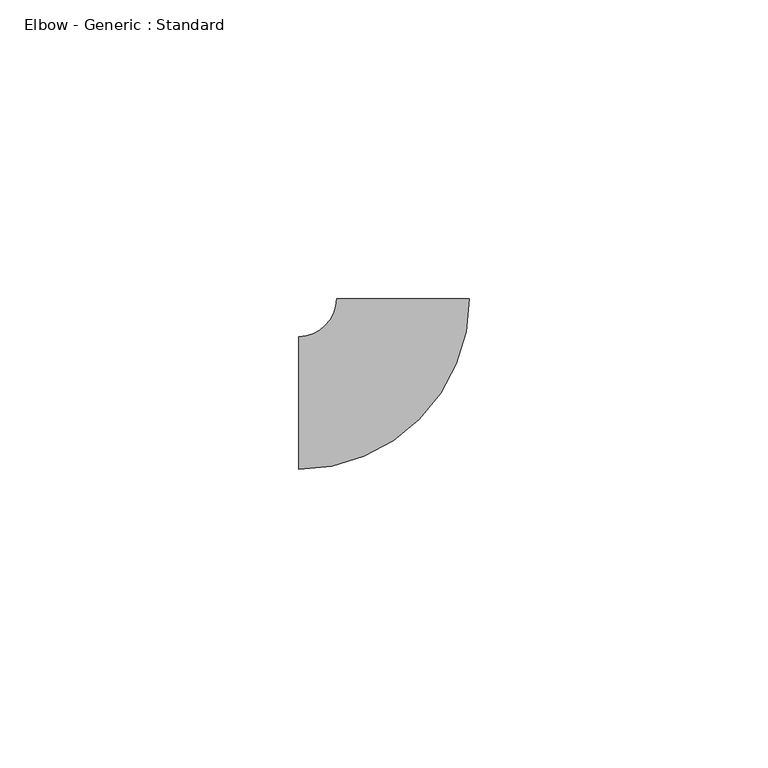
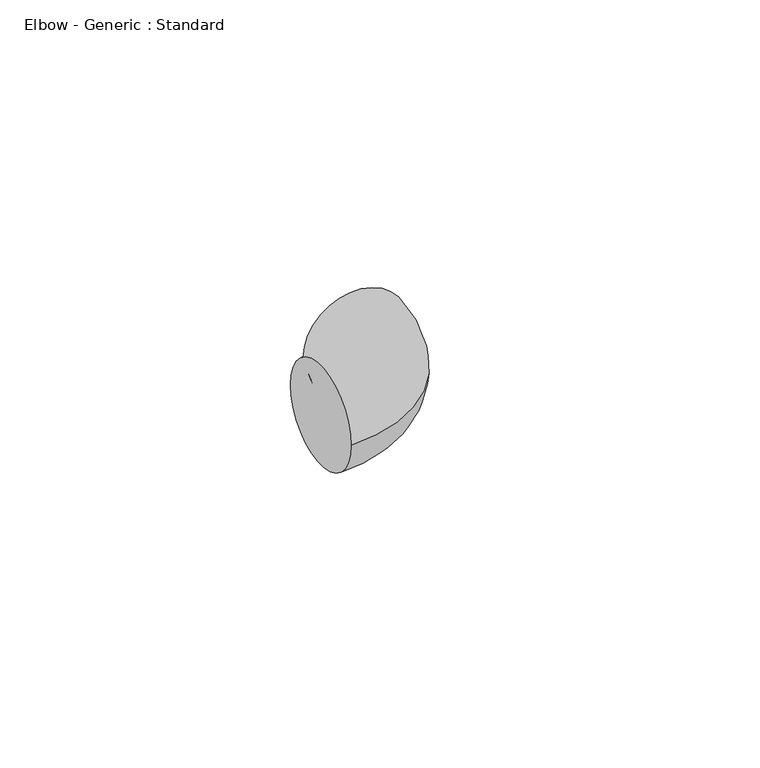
"""IFC4 building model written with IfcOpenShell, lengths in millimetres: pipe fitting geometry, Elbow - Generic : Standard."""

from ifc_helpers import new_model, si_unit, point, frame, origin, place, context, project, spatial, circle_curve, ellipse_curve, trimmed, source, transform, mapped, element, save
from ifc_brep_helpers import plane_surface, revolved_surface, advanced_brep


def elbow_generic_standard_908d6d78(model_context):
    return source(origin(), model_context, "Body", "AdvancedBrep", [
        advanced_brep(
        [(-17.4655895, -11.1125, 0.0), (-17.4655895, 11.1125, 0.0), (11.10941, 17.4675551, 0.0), (-11.1155896, 17.4636234, 0.0)],
        [
            (0, 1, circle_curve(frame((-17.4655895, 0.0, 0.0), z_axis=(-1.0, 0.0, 0.0), x_axis=(0.0, 1.0, 0.0)), 11.1125)),
            (1, 0, circle_curve(frame((-17.4655895, 0.0, 0.0), z_axis=(-1.0, 0.0, 0.0), x_axis=(0.0, 1.0, 0.0)), 11.1125)),
            (2, 3, circle_curve(frame((-0.0030898, 17.4655893, 0.0), z_axis=(-0.00017690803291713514, 0.9999999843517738, 0.0), x_axis=(-0.9999999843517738, -0.00017690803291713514, 0.0)), 11.1125)),
            (3, 2, circle_curve(frame((-0.0030898, 17.4655893, 0.0), z_axis=(-0.00017690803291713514, 0.9999999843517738, 0.0), x_axis=(-0.9999999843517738, -0.00017690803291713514, 0.0)), 11.1125)),
            (3, 1, circle_curve(frame((-17.4655895, 17.4625, 0.0), z_axis=(0.0, 0.0, -1.0), x_axis=(0.0, -1.0, 0.0)), 6.35)),
            (0, 2, circle_curve(frame((-17.4655895, 17.4625, 0.0), z_axis=(0.0, 0.0, 1.0), x_axis=(0.0, -1.0, 0.0)), 28.575)),
        ],
        [
            plane_surface(frame((-17.4655895, 0.0, 0.0), z_axis=(-1.0, 0.0, 0.0), x_axis=(0.0, 0.0, 1.0))),
            plane_surface(frame((-0.0030898, 17.4655893, 0.0), z_axis=(-0.0001769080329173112, 0.9999999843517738, 0.0), x_axis=(0.0, 0.0, 1.0))),
            revolved_surface(trimmed(ellipse_curve(frame((-17.4655895, 0.0, 0.0), z_axis=(-1.0, 0.0, 0.0), x_axis=(0.0, 1.0, 0.0)), 11.1125, 11.1125), [point((-17.4655895, -11.1125, 0.0))], [point((-17.4655895, 11.1125, 0.0))], True, "CARTESIAN"), (-17.4655895, 17.4625, 0.0), (0.0, 0.0, 1.0)),
            revolved_surface(trimmed(ellipse_curve(frame((-17.4655895, 0.0, 0.0), z_axis=(-1.0, 0.0, 0.0), x_axis=(0.0, 1.0, 0.0)), 11.1125, 11.1125), [point((-17.4655895, 11.1125, 0.0))], [point((-17.4655895, -11.1125, 0.0))], True, "CARTESIAN"), (-17.4655895, 17.4625, 0.0), (0.0, 0.0, 1.0)),
        ],
        [
            (0, [[1, 2]]),
            (1, [[3, 4]]),
            (2, [[5, -1, 6, -4]]),
            (3, [[-6, -2, -5, -3]]),
        ],
    ),
    ])


if __name__ == "__main__":
    model = new_model("IFC4")
    model_context = context("Model", 3, world=origin())
    ifc_project = project(units=[si_unit("LENGTHUNIT", "METRE", prefix="MILLI")], contexts=[model_context])
    site = spatial("IfcSite", under=ifc_project)
    building = spatial("IfcBuilding", under=site)
    placement = place(None, origin())
    elbow_generic_standard_shape = elbow_generic_standard_908d6d78(model_context)
    element("IfcPipeFitting", 1, ObjectType="Elbow - Generic : Standard", at=placement, inside=building, context=model_context, shape_type="MappedRepresentation", body=[
        mapped(elbow_generic_standard_shape, transform((0.0, 0.0, 0.0), x_axis=(1.0, 0.0, 0.0), y_axis=(0.0, 1.0, 0.0), z_axis=(0.0, 0.0, 1.0))),
    ])
    save(model, "model.ifc")
